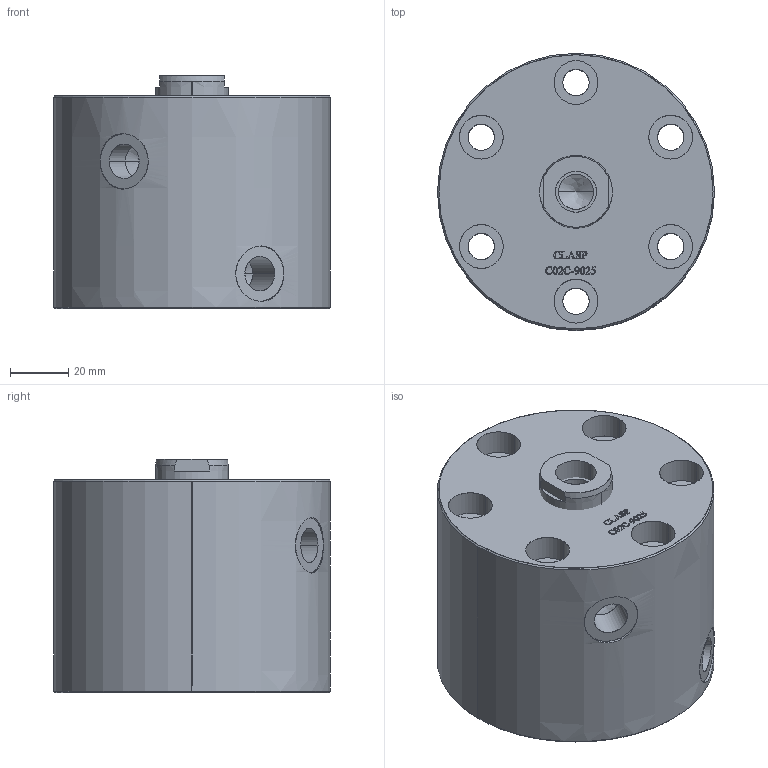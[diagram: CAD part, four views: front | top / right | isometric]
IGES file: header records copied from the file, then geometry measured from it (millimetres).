
Start section: SolidWorks IGES file using analytic representation for surfaces
Global section: file name: D:\karuppas\Clasp\3D model\COMPACT CYLINDER\C02C-9025\C02C-9025.IGS; native system: SolidWorks 2017; preprocessor: SolidWorks 2017; author: pc; date: 220709.232143; units: millimetre
Bounding box: 95 x 95 x 80 mm (x, y, z)
Surface area: 56794.5 mm2 (no closed solid volume)
Topology: 0 solids, 0 shells, 325 faces, 4947 edges, 4941 vertices
Faces by surface type: bspline 272, revolution 53
